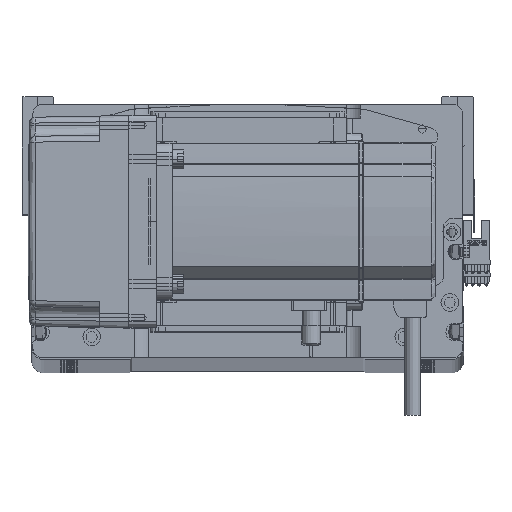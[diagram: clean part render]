
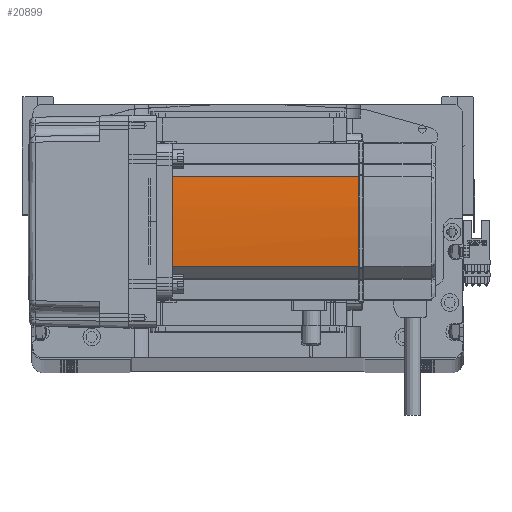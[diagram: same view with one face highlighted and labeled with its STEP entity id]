
A CAD part, top view. The second image highlights one B-rep face of the part: STEP entity #20899.
In plain terms, the highlighted cylindrical face has radius 270 mm (diameter 540 mm), a partial arc.
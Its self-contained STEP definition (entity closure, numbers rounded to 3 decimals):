
#1057 = EDGE_CURVE ( 'NONE', #24928, #45663, #45212, .T. ) ;
#1216 = CIRCLE ( 'NONE', #25556, 270. ) ;
#2061 = DIRECTION ( 'NONE',  ( 0., 0., -1. ) ) ;
#2762 = CARTESIAN_POINT ( 'NONE',  ( 39.042, 22.724, 39. ) ) ;
#4651 = VECTOR ( 'NONE', #42828, 1000. ) ;
#4825 = CARTESIAN_POINT ( 'NONE',  ( -230., 0., 134. ) ) ;
#5238 = DIRECTION ( 'NONE',  ( -1., 0., 0. ) ) ;
#6274 = EDGE_CURVE ( 'NONE', #33100, #50521, #58550, .T. ) ;
#7317 = CARTESIAN_POINT ( 'NONE',  ( 40., 0.127, 134. ) ) ;
#7714 = VERTEX_POINT ( 'NONE', #33323 ) ;
#9153 = LINE ( 'NONE', #45303, #57475 ) ;
#11689 = CARTESIAN_POINT ( 'NONE',  ( 40., -0.042, 134. ) ) ;
#12022 = ORIENTED_EDGE ( 'NONE', *, *, #1057, .T. ) ;
#13958 = EDGE_CURVE ( 'NONE', #33100, #7714, #27718, .T. ) ;
#14308 = AXIS2_PLACEMENT_3D ( 'NONE', #52057, #61586, #32292 ) ;
#14594 = ORIENTED_EDGE ( 'NONE', *, *, #45167, .T. ) ;
#20526 = CYLINDRICAL_SURFACE ( 'NONE', #36466, 270. ) ;
#20899 = ADVANCED_FACE ( 'NONE', ( #58403 ), #20526, .T. ) ;
#20967 = CARTESIAN_POINT ( 'NONE',  ( -230., 0., 134. ) ) ;
#23934 = CARTESIAN_POINT ( 'NONE',  ( -230., 0., 58. ) ) ;
#24150 = DIRECTION ( 'NONE',  ( 0., 0., -1. ) ) ;
#24928 = VERTEX_POINT ( 'NONE', #41706 ) ;
#25556 = AXIS2_PLACEMENT_3D ( 'NONE', #20967, #2061, #40265 ) ;
#25773 = AXIS2_PLACEMENT_3D ( 'NONE', #4825, #38032, #57163 ) ;
#26476 = CARTESIAN_POINT ( 'NONE',  ( 40., -0.127, 134. ) ) ;
#27117 = CARTESIAN_POINT ( 'NONE',  ( 39.042, -22.724, 39. ) ) ;
#27718 = LINE ( 'NONE', #51970, #4651 ) ;
#28081 = ORIENTED_EDGE ( 'NONE', *, *, #28704, .T. ) ;
#28704 = EDGE_CURVE ( 'NONE', #45663, #50521, #9153, .T. ) ;
#32292 = DIRECTION ( 'NONE',  ( -1., 0., 0. ) ) ;
#33005 = EDGE_LOOP ( 'NONE', ( #28081, #43083, #54225, #14594, #38537, #12022 ) ) ;
#33100 = VERTEX_POINT ( 'NONE', #2762 ) ;
#33323 = CARTESIAN_POINT ( 'NONE',  ( 39.042, 22.724, 134. ) ) ;
#35022 = VERTEX_POINT ( 'NONE', #52042 ) ;
#36466 = AXIS2_PLACEMENT_3D ( 'NONE', #23934, #24150, #5238 ) ;
#37545 = B_SPLINE_CURVE_WITH_KNOTS ( 'NONE', 3,
 ( #26476, #11689, #45178, #7317 ),
 .UNSPECIFIED., .F., .F.,
 ( 4, 4 ),
 ( 0., 1. ),
 .UNSPECIFIED. ) ;
#38032 = DIRECTION ( 'NONE',  ( 0., 0., -1. ) ) ;
#38537 = ORIENTED_EDGE ( 'NONE', *, *, #61604, .F. ) ;
#40265 = DIRECTION ( 'NONE',  ( -1., 0., 0. ) ) ;
#41706 = CARTESIAN_POINT ( 'NONE',  ( 40., -0.127, 134. ) ) ;
#42828 = DIRECTION ( 'NONE',  ( 0., 0., 1. ) ) ;
#43083 = ORIENTED_EDGE ( 'NONE', *, *, #6274, .F. ) ;
#45167 = EDGE_CURVE ( 'NONE', #7714, #35022, #1216, .T. ) ;
#45178 = CARTESIAN_POINT ( 'NONE',  ( 40., 0.042, 134. ) ) ;
#45212 = CIRCLE ( 'NONE', #25773, 270. ) ;
#45303 = CARTESIAN_POINT ( 'NONE',  ( 39.042, -22.724, 58. ) ) ;
#45663 = VERTEX_POINT ( 'NONE', #48972 ) ;
#48972 = CARTESIAN_POINT ( 'NONE',  ( 39.042, -22.724, 134. ) ) ;
#50521 = VERTEX_POINT ( 'NONE', #27117 ) ;
#50705 = DIRECTION ( 'NONE',  ( 0., 0., -1. ) ) ;
#51970 = CARTESIAN_POINT ( 'NONE',  ( 39.042, 22.724, 58. ) ) ;
#52042 = CARTESIAN_POINT ( 'NONE',  ( 40., 0.127, 134. ) ) ;
#52057 = CARTESIAN_POINT ( 'NONE',  ( -230., 0., 39. ) ) ;
#54225 = ORIENTED_EDGE ( 'NONE', *, *, #13958, .T. ) ;
#57163 = DIRECTION ( 'NONE',  ( -1., 0., 0. ) ) ;
#57475 = VECTOR ( 'NONE', #50705, 1000. ) ;
#58403 = FACE_OUTER_BOUND ( 'NONE', #33005, .T. ) ;
#58550 = CIRCLE ( 'NONE', #14308, 270. ) ;
#61586 = DIRECTION ( 'NONE',  ( 0., 0., -1. ) ) ;
#61604 = EDGE_CURVE ( 'NONE', #24928, #35022, #37545, .T. ) ;
